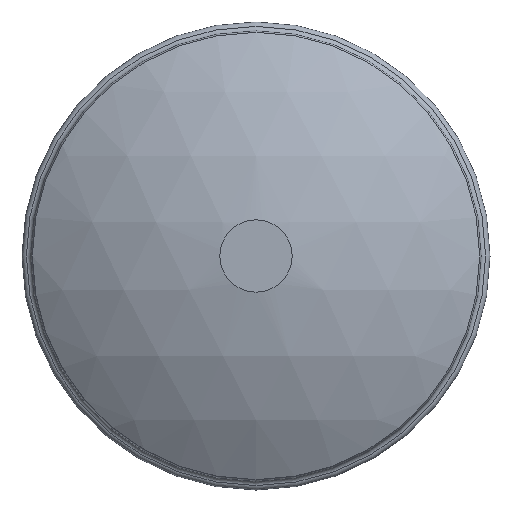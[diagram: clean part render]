
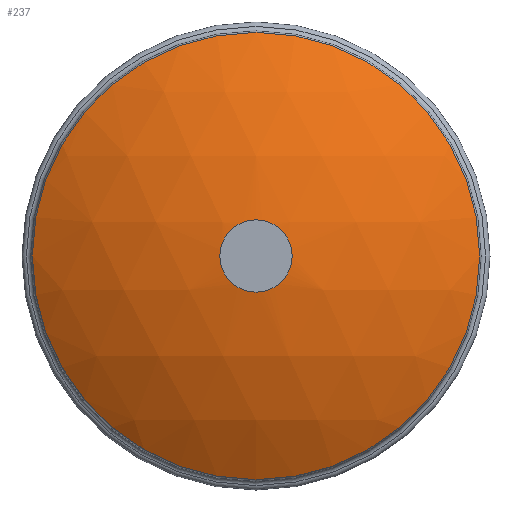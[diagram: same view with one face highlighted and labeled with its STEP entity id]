
A CAD part, left-side view. The second image highlights one B-rep face of the part: STEP entity #237.
In plain terms, the highlighted spherical face has radius 240.538 mm.
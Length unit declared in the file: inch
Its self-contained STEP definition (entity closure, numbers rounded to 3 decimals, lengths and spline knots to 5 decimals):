
#45=FACE_BOUND('',#75,.T.);
#47=SPHERICAL_SURFACE('',#284,9.47);
#62=FACE_OUTER_BOUND('',#74,.T.);
#74=EDGE_LOOP('',(#190));
#75=EDGE_LOOP('',(#191));
#90=CIRCLE('',#264,0.83);
#93=CIRCLE('',#269,5.13798);
#113=VERTEX_POINT('',#416);
#115=VERTEX_POINT('',#423);
#133=EDGE_CURVE('',#113,#113,#90,.T.);
#136=EDGE_CURVE('',#115,#115,#93,.T.);
#190=ORIENTED_EDGE('',*,*,#136,.F.);
#191=ORIENTED_EDGE('',*,*,#133,.T.);
#237=ADVANCED_FACE('',(#62,#45),#47,.T.);
#264=AXIS2_PLACEMENT_3D('',#418,#317,#318);
#269=AXIS2_PLACEMENT_3D('',#425,#327,#328);
#284=AXIS2_PLACEMENT_3D('',#450,#359,#360);
#317=DIRECTION('center_axis',(1.,0.,0.));
#318=DIRECTION('ref_axis',(0.,0.,1.));
#327=DIRECTION('center_axis',(1.,0.,0.));
#328=DIRECTION('ref_axis',(0.,0.,-1.));
#359=DIRECTION('center_axis',(0.,0.,1.));
#360=DIRECTION('ref_axis',(-1.,0.002,0.));
#416=CARTESIAN_POINT('',(0.03644,0.,-0.83));
#418=CARTESIAN_POINT('Origin',(0.03644,0.,
0.));
#423=CARTESIAN_POINT('',(1.515,-5.13798,0.));
#425=CARTESIAN_POINT('Origin',(1.515,0.,0.));
#450=CARTESIAN_POINT('Origin',(9.47,0.,0.));
